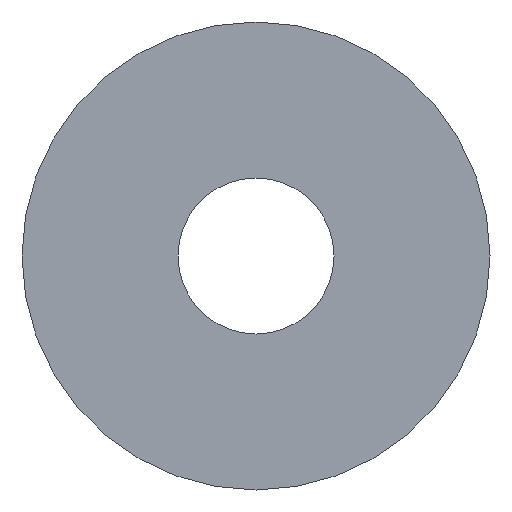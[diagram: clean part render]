
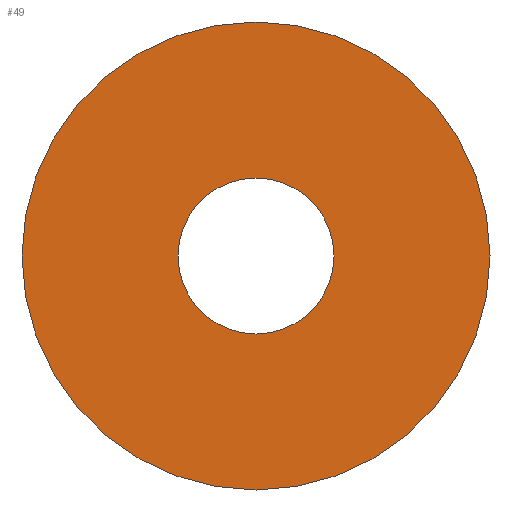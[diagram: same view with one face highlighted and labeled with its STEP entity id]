
A CAD part, front view. The second image highlights one B-rep face of the part: STEP entity #49.
In plain terms, the highlighted planar face has unit normal (0, -1, 0).
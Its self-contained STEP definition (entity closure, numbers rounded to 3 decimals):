
#10 = ORIENTED_EDGE ( 'NONE', *, *, #19, .F. ) ;
#19 = EDGE_CURVE ( 'NONE', #154, #154, #151, .T. ) ;
#21 = CARTESIAN_POINT ( 'NONE',  ( 0., -5.5, 0. ) ) ;
#29 = DIRECTION ( 'NONE',  ( 0., 1., 0. ) ) ;
#30 = CARTESIAN_POINT ( 'NONE',  ( 0., -5.5, 0. ) ) ;
#47 = VERTEX_POINT ( 'NONE', #66 ) ;
#49 = ADVANCED_FACE ( 'NONE', ( #134, #125 ), #150, .F. ) ;
#60 = CARTESIAN_POINT ( 'NONE',  ( 0., -5.5, 12. ) ) ;
#66 = CARTESIAN_POINT ( 'NONE',  ( 0., -5.5, 4. ) ) ;
#73 = DIRECTION ( 'NONE',  ( 0., 0., 1. ) ) ;
#86 = DIRECTION ( 'NONE',  ( 0., 1., 0. ) ) ;
#110 = EDGE_LOOP ( 'NONE', ( #10 ) ) ;
#123 = CIRCLE ( 'NONE', #155, 4. ) ;
#125 = FACE_BOUND ( 'NONE', #148, .T. ) ;
#132 = DIRECTION ( 'NONE',  ( 0., 1., 0. ) ) ;
#134 = FACE_OUTER_BOUND ( 'NONE', #110, .T. ) ;
#139 = DIRECTION ( 'NONE',  ( 0., 0., 1. ) ) ;
#140 = CARTESIAN_POINT ( 'NONE',  ( 4., -5.5, 0. ) ) ;
#148 = EDGE_LOOP ( 'NONE', ( #160 ) ) ;
#149 = EDGE_CURVE ( 'NONE', #47, #47, #123, .T. ) ;
#150 = PLANE ( 'NONE',  #171 ) ;
#151 = CIRCLE ( 'NONE', #162, 12. ) ;
#154 = VERTEX_POINT ( 'NONE', #60 ) ;
#155 = AXIS2_PLACEMENT_3D ( 'NONE', #30, #29, #139 ) ;
#160 = ORIENTED_EDGE ( 'NONE', *, *, #149, .T. ) ;
#162 = AXIS2_PLACEMENT_3D ( 'NONE', #21, #132, #172 ) ;
#171 = AXIS2_PLACEMENT_3D ( 'NONE', #140, #86, #73 ) ;
#172 = DIRECTION ( 'NONE',  ( 0., 0., 1. ) ) ;
